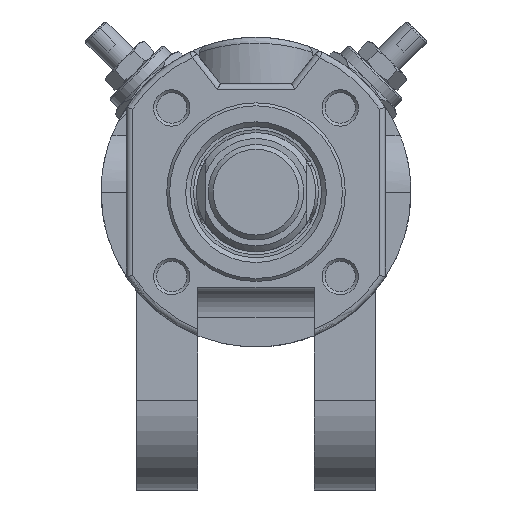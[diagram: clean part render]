
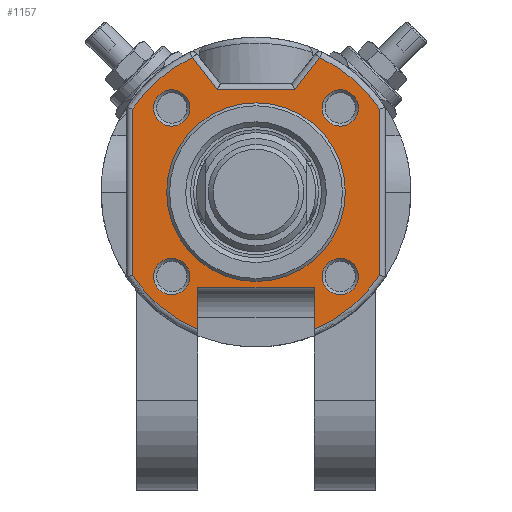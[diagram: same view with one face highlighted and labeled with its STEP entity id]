
A CAD part, front view. The second image highlights one B-rep face of the part: STEP entity #1157.
In plain terms, the highlighted planar face has unit normal (0, -1, 0).
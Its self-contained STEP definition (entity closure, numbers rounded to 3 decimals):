
#141=CARTESIAN_POINT('',(9.75,3.,-23.02));
#142=VERTEX_POINT('',#141);
#168=CARTESIAN_POINT('',(9.75,3.,-16.));
#169=VERTEX_POINT('',#168);
#170=CARTESIAN_POINT('',(9.75,3.,-16.));
#171=DIRECTION('',(0.0,0.0,-1.0));
#172=VECTOR('',#171,7.02);
#173=LINE('',#170,#172);
#174=EDGE_CURVE('',#169,#142,#173,.T.);
#227=CARTESIAN_POINT('',(-9.75,3.,-16.));
#228=VERTEX_POINT('',#227);
#235=CARTESIAN_POINT('',(-9.75,3.,-23.02));
#236=VERTEX_POINT('',#235);
#237=CARTESIAN_POINT('',(-9.75,3.,-23.02));
#238=DIRECTION('',(0.0,0.0,1.0));
#239=VECTOR('',#238,7.02);
#240=LINE('',#237,#239);
#241=EDGE_CURVE('',#236,#228,#240,.T.);
#330=CARTESIAN_POINT('',(-20.75,3.,-13.944));
#331=VERTEX_POINT('',#330);
#332=CARTESIAN_POINT('',(0.0,3.,0.0));
#333=DIRECTION('',(0.0,1.0,0.0));
#334=DIRECTION('',(-0.603,0.0,-0.798));
#335=AXIS2_PLACEMENT_3D('',#332,#333,#334);
#336=CIRCLE('',#335,25.);
#337=EDGE_CURVE('',#236,#331,#336,.T.);
#1021=CARTESIAN_POINT('',(0.,3.,-18.267));
#1022=DIRECTION('',(0.0,1.0,0.0));
#1023=DIRECTION('',(0.0,0.0,1.0));
#1024=AXIS2_PLACEMENT_3D('',#1021,#1022,#1023);
#1025=PLANE('',#1024);
#1026=ORIENTED_EDGE('',*,*,#241,.T.);
#1027=CARTESIAN_POINT('',(9.75,3.,-16.));
#1028=DIRECTION('',(-1.0,0.0,0.0));
#1029=VECTOR('',#1028,19.5);
#1030=LINE('',#1027,#1029);
#1031=EDGE_CURVE('',#169,#228,#1030,.T.);
#1032=ORIENTED_EDGE('',*,*,#1031,.F.);
#1033=ORIENTED_EDGE('',*,*,#174,.T.);
#1034=CARTESIAN_POINT('',(20.75,3.,-13.944));
#1035=VERTEX_POINT('',#1034);
#1036=CARTESIAN_POINT('',(0.0,3.,0.0));
#1037=DIRECTION('',(0.0,1.0,0.0));
#1038=DIRECTION('',(0.603,0.0,-0.798));
#1039=AXIS2_PLACEMENT_3D('',#1036,#1037,#1038);
#1040=CIRCLE('',#1039,25.);
#1041=EDGE_CURVE('',#1035,#142,#1040,.T.);
#1042=ORIENTED_EDGE('',*,*,#1041,.F.);
#1043=CARTESIAN_POINT('',(20.75,3.,13.944));
#1044=VERTEX_POINT('',#1043);
#1045=CARTESIAN_POINT('',(20.75,3.,13.944));
#1046=DIRECTION('',(0.0,0.0,-1.0));
#1047=VECTOR('',#1046,27.888);
#1048=LINE('',#1045,#1047);
#1049=EDGE_CURVE('',#1044,#1035,#1048,.T.);
#1050=ORIENTED_EDGE('',*,*,#1049,.F.);
#1051=CARTESIAN_POINT('',(10.702,3.,22.594));
#1052=VERTEX_POINT('',#1051);
#1053=CARTESIAN_POINT('',(0.0,3.,0.0));
#1054=DIRECTION('',(0.0,1.0,0.0));
#1055=DIRECTION('',(0.657,0.0,0.754));
#1056=AXIS2_PLACEMENT_3D('',#1053,#1054,#1055);
#1057=CIRCLE('',#1056,25.);
#1058=EDGE_CURVE('',#1052,#1044,#1057,.T.);
#1059=ORIENTED_EDGE('',*,*,#1058,.F.);
#1060=CARTESIAN_POINT('',(6.488,3.,17.2));
#1061=VERTEX_POINT('',#1060);
#1062=CARTESIAN_POINT('',(6.488,3.,17.2));
#1063=DIRECTION('',(0.616,0.0,0.788));
#1064=VECTOR('',#1063,6.845);
#1065=LINE('',#1062,#1064);
#1066=EDGE_CURVE('',#1061,#1052,#1065,.T.);
#1067=ORIENTED_EDGE('',*,*,#1066,.F.);
#1068=CARTESIAN_POINT('',(-6.488,3.,17.2));
#1069=VERTEX_POINT('',#1068);
#1070=CARTESIAN_POINT('',(-6.488,3.,17.2));
#1071=DIRECTION('',(1.0,0.0,0.0));
#1072=VECTOR('',#1071,12.975);
#1073=LINE('',#1070,#1072);
#1074=EDGE_CURVE('',#1069,#1061,#1073,.T.);
#1075=ORIENTED_EDGE('',*,*,#1074,.F.);
#1076=CARTESIAN_POINT('',(-10.702,3.,22.594));
#1077=VERTEX_POINT('',#1076);
#1078=CARTESIAN_POINT('',(-10.702,3.,22.594));
#1079=DIRECTION('',(0.616,0.0,-0.788));
#1080=VECTOR('',#1079,6.845);
#1081=LINE('',#1078,#1080);
#1082=EDGE_CURVE('',#1077,#1069,#1081,.T.);
#1083=ORIENTED_EDGE('',*,*,#1082,.F.);
#1084=CARTESIAN_POINT('',(-20.75,3.,13.944));
#1085=VERTEX_POINT('',#1084);
#1086=CARTESIAN_POINT('',(0.0,3.,0.0));
#1087=DIRECTION('',(0.0,1.0,0.0));
#1088=DIRECTION('',(-0.657,0.0,0.754));
#1089=AXIS2_PLACEMENT_3D('',#1086,#1087,#1088);
#1090=CIRCLE('',#1089,25.);
#1091=EDGE_CURVE('',#1085,#1077,#1090,.T.);
#1092=ORIENTED_EDGE('',*,*,#1091,.F.);
#1093=CARTESIAN_POINT('',(-20.75,3.,-13.944));
#1094=DIRECTION('',(0.0,0.0,1.0));
#1095=VECTOR('',#1094,27.888);
#1096=LINE('',#1093,#1095);
#1097=EDGE_CURVE('',#331,#1085,#1096,.T.);
#1098=ORIENTED_EDGE('',*,*,#1097,.F.);
#1099=ORIENTED_EDGE('',*,*,#337,.F.);
#1100=EDGE_LOOP('',(#1026,#1032,#1033,#1042,#1050,#1059,#1067,#1075,#1083,#1092,#1098,#1099));
#1101=FACE_OUTER_BOUND('',#1100,.T.);
#1102=CARTESIAN_POINT('',(11.092,3.,-14.142));
#1103=VERTEX_POINT('',#1102);
#1104=CARTESIAN_POINT('',(14.142,3.,-14.142));
#1105=DIRECTION('',(0.0,-1.0,0.0));
#1106=DIRECTION('',(1.0,0.0,0.0));
#1107=AXIS2_PLACEMENT_3D('',#1104,#1105,#1106);
#1108=CIRCLE('',#1107,3.05);
#1109=EDGE_CURVE('',#1103,#1103,#1108,.T.);
#1110=ORIENTED_EDGE('',*,*,#1109,.F.);
#1111=EDGE_LOOP('',(#1110));
#1112=FACE_BOUND('',#1111,.T.);
#1113=CARTESIAN_POINT('',(14.142,3.,11.092));
#1114=VERTEX_POINT('',#1113);
#1115=CARTESIAN_POINT('',(14.142,3.,14.142));
#1116=DIRECTION('',(0.0,-1.0,0.0));
#1117=DIRECTION('',(0.0,0.0,1.0));
#1118=AXIS2_PLACEMENT_3D('',#1115,#1116,#1117);
#1119=CIRCLE('',#1118,3.05);
#1120=EDGE_CURVE('',#1114,#1114,#1119,.T.);
#1121=ORIENTED_EDGE('',*,*,#1120,.F.);
#1122=EDGE_LOOP('',(#1121));
#1123=FACE_BOUND('',#1122,.T.);
#1124=CARTESIAN_POINT('',(15.0,3.,0.));
#1125=VERTEX_POINT('',#1124);
#1126=CARTESIAN_POINT('',(0.0,3.,0.0));
#1127=DIRECTION('',(0.0,-1.0,0.0));
#1128=DIRECTION('',(-1.0,0.0,0.0));
#1129=AXIS2_PLACEMENT_3D('',#1126,#1127,#1128);
#1130=CIRCLE('',#1129,15.0);
#1131=EDGE_CURVE('',#1125,#1125,#1130,.T.);
#1132=ORIENTED_EDGE('',*,*,#1131,.F.);
#1133=EDGE_LOOP('',(#1132));
#1134=FACE_BOUND('',#1133,.T.);
#1135=CARTESIAN_POINT('',(-11.092,3.,14.142));
#1136=VERTEX_POINT('',#1135);
#1137=CARTESIAN_POINT('',(-14.142,3.,14.142));
#1138=DIRECTION('',(0.0,-1.0,0.0));
#1139=DIRECTION('',(-1.0,0.0,0.0));
#1140=AXIS2_PLACEMENT_3D('',#1137,#1138,#1139);
#1141=CIRCLE('',#1140,3.05);
#1142=EDGE_CURVE('',#1136,#1136,#1141,.T.);
#1143=ORIENTED_EDGE('',*,*,#1142,.F.);
#1144=EDGE_LOOP('',(#1143));
#1145=FACE_BOUND('',#1144,.T.);
#1146=CARTESIAN_POINT('',(-14.142,3.,-11.092));
#1147=VERTEX_POINT('',#1146);
#1148=CARTESIAN_POINT('',(-14.142,3.,-14.142));
#1149=DIRECTION('',(0.0,-1.0,0.0));
#1150=DIRECTION('',(0.0,0.0,-1.0));
#1151=AXIS2_PLACEMENT_3D('',#1148,#1149,#1150);
#1152=CIRCLE('',#1151,3.05);
#1153=EDGE_CURVE('',#1147,#1147,#1152,.T.);
#1154=ORIENTED_EDGE('',*,*,#1153,.F.);
#1155=EDGE_LOOP('',(#1154));
#1156=FACE_BOUND('',#1155,.T.);
#1157=ADVANCED_FACE('',(#1101,#1112,#1123,#1134,#1145,#1156),#1025,.F.);
